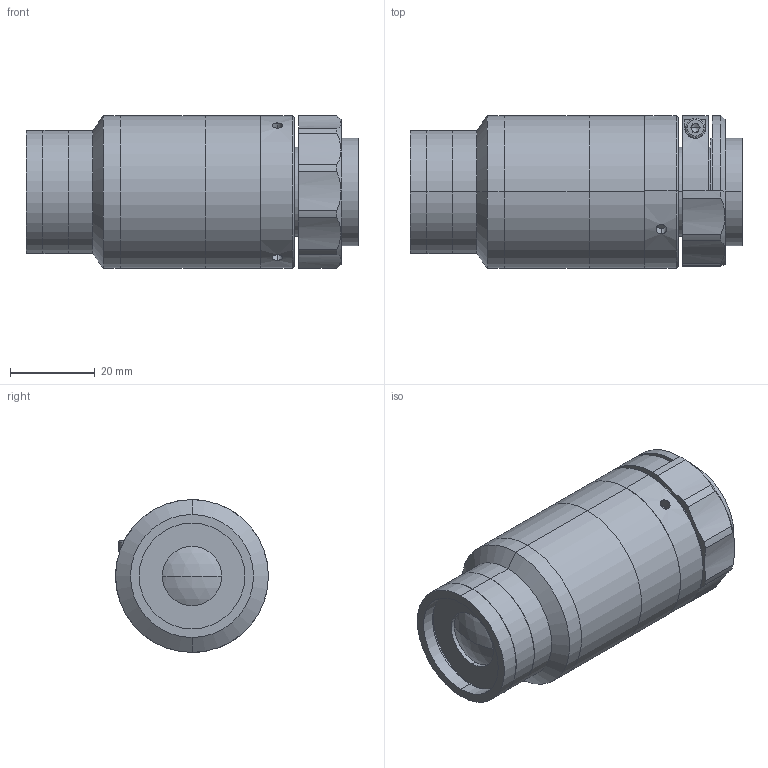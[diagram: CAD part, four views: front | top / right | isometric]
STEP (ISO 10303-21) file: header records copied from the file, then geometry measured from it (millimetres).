
FILE_DESCRIPTION (( 'STEP AP203' ), '1' );
FILE_NAME ('XF-MH06X114.STEP', '2020-08-24T07:08:30', ( 'canrill-02' ), ( '' ), 'SwSTEP 2.0', 'SolidWorks 2014', '' );
FILE_SCHEMA (( 'CONFIG_CONTROL_DESIGN' ));
Length unit declared in the file: millimetre
Products named in the file (1): XF-MH06X114
Bounding box: 78.24 x 36 x 36 mm (x, y, z)
Surface area: 14889.6 mm2 (no closed solid volume)
Topology: 0 solids, 13 shells, 102 faces, 264 edges, 181 vertices
Faces by surface type: cylinder 49, plane 34, cone 15, sphere 2, torus 2
Entity records: 3505 total; most frequent: CARTESIAN_POINT 867, DIRECTION 588, ORIENTED_EDGE 450, EDGE_CURVE 262, AXIS2_PLACEMENT_3D 246, VERTEX_POINT 181, CIRCLE 143, EDGE_LOOP 128
